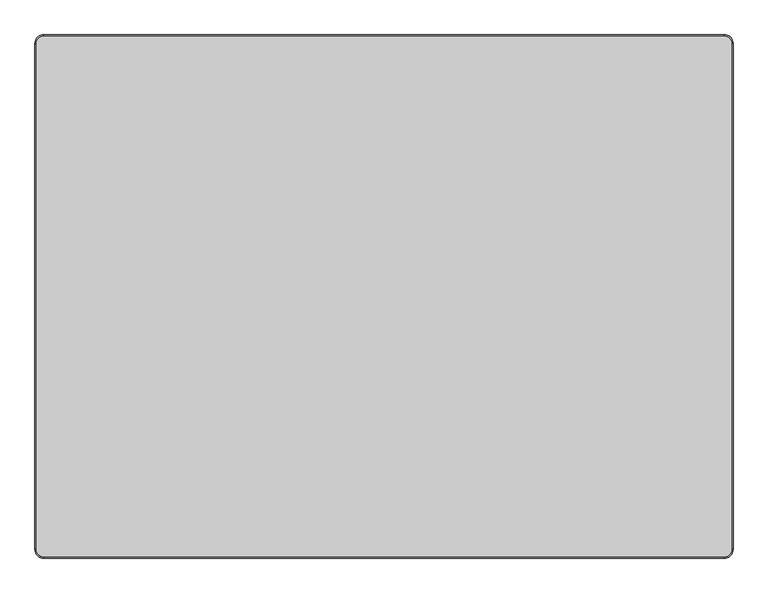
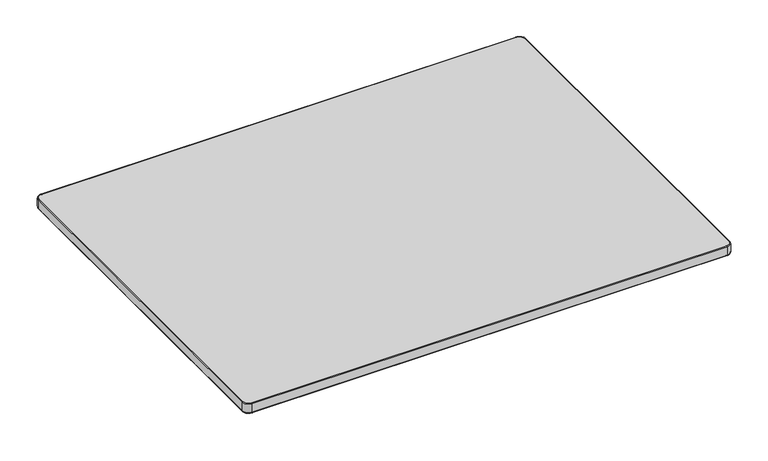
"""IFC4 building model written with IfcOpenShell, lengths in millimetres: furniture geometry, Furniture_Wilkhahn_mAx_461-00 : mAx_461-00_1200L x 900W x 730H-Straight with Plastic Lipping."""

from ifc_helpers import new_model, si_unit, point, frame, frame_2d, origin, place, context, project, spatial, polyline, circle_curve, ellipse_curve, trimmed, segment, composite_curve, outline, extrude, source, transform, mapped, element, save
from ifc_brep_helpers import plane_surface, cylinder_surface, revolved_surface, advanced_brep


def furniture_b8dd3662(model_context):
    return source(origin(), model_context, "Body", "SolidModel", [
        extrude(outline(composite_curve([segment(polyline([(699.4444598, 520.25), (699.4444598, 505.25), (698.6411472, 505.25)]), True, "CONTINUOUS"), segment(trimmed(circle_curve(frame_2d((698.6411472, 497.75)), 7.5), [point((698.6411472, 505.25))], [point((691.1411472, 497.75))], True, "CARTESIAN"), True, "CONTINUOUS"), segment(polyline([(691.1411472, 497.75), (691.1411472, 488.0351209)]), True, "CONTINUOUS"), segment(trimmed(circle_curve(frame_2d((691.6411472, 488.0351209)), 0.5), [point((691.1411472, 488.0351209))], [point((691.6411472, 487.5351209))], True, "CARTESIAN"), True, "CONTINUOUS"), segment(polyline([(691.6411472, 487.5351209), (698.2216542, 487.5351209), (698.2216542, 472.5351209), (691.6411472, 472.5351209)]), True, "CONTINUOUS"), segment(trimmed(circle_curve(frame_2d((691.6411472, 488.0351209)), 15.5), [point((691.6411472, 472.5351209))], [point((676.1411472, 488.0351209))], False, "CARTESIAN"), True, "CONTINUOUS"), segment(polyline([(676.1411472, 488.0351209), (676.1411472, 497.75)]), True, "CONTINUOUS"), segment(trimmed(circle_curve(frame_2d((698.6411472, 497.75)), 22.5), [point((676.1411472, 497.75))], [point((698.6411472, 520.25))], False, "CARTESIAN"), True, "CONTINUOUS"), segment(polyline([(698.6411472, 520.25), (699.4444598, 520.25)]), True, "CONTINUOUS")], self_intersect=False)), frame((0.0, -642.8982692, 0.0), z_axis=(0.0, 1.0, 0.0), x_axis=(0.0, 0.0, 1.0)), (0.0, 0.0, 1.0), 13.865484),
        extrude(outline(composite_curve([segment(trimmed(circle_curve(frame_2d((460.25, -605.3725325)), 9.0), [point((451.25, -605.3725325))], [point((460.25, -596.3725325))], False, "CARTESIAN"), True, "CONTINUOUS"), segment(polyline([(460.25, -596.3725325), (565.25, -596.3725325)]), True, "CONTINUOUS"), segment(trimmed(circle_curve(frame_2d((565.25, -605.3725325)), 9.0), [point((565.25, -596.3725325))], [point((574.25, -605.3725325))], False, "CARTESIAN"), True, "CONTINUOUS"), segment(polyline([(574.25, -605.3725325), (574.25, -666.5585218)]), True, "CONTINUOUS"), segment(trimmed(circle_curve(frame_2d((565.25, -666.5585218)), 9.0), [point((574.25, -666.5585218))], [point((565.25, -675.5585218))], False, "CARTESIAN"), True, "CONTINUOUS"), segment(polyline([(565.25, -675.5585218), (460.25, -675.5585218)]), True, "CONTINUOUS"), segment(trimmed(circle_curve(frame_2d((460.25, -666.5585218)), 9.0), [point((460.25, -675.5585218))], [point((451.25, -666.5585218))], False, "CARTESIAN"), True, "CONTINUOUS"), segment(polyline([(451.25, -666.5585218), (451.25, -605.3725325)]), True, "CONTINUOUS")], self_intersect=False)), frame((0.0, 0.0, 700.0), z_axis=(0.0, 0.0, 1.0), x_axis=(1.0, 0.0, 0.0)), (0.0, 0.0, 1.0), 5.0),
        extrude(outline(composite_curve([segment(polyline([(699.4444598, 505.25), (698.6411472, 505.25)]), True, "CONTINUOUS"), segment(trimmed(circle_curve(frame_2d((698.6411472, 497.75)), 7.5), [point((698.6411472, 505.25))], [point((691.1411472, 497.75))], True, "CARTESIAN"), True, "CONTINUOUS"), segment(polyline([(691.1411472, 497.75), (691.1411472, 488.0351209)]), True, "CONTINUOUS"), segment(trimmed(circle_curve(frame_2d((691.6411472, 488.0351209)), 0.5), [point((691.1411472, 488.0351209))], [point((691.6411472, 487.5351209))], True, "CARTESIAN"), True, "CONTINUOUS"), segment(polyline([(691.6411472, 487.5351209), (698.2216542, 487.5351209), (698.2216542, 472.5351209), (691.6411472, 472.5351209)]), True, "CONTINUOUS"), segment(trimmed(circle_curve(frame_2d((691.6411472, 488.0351209)), 15.5), [point((691.6411472, 472.5351209))], [point((676.1411472, 488.0351209))], False, "CARTESIAN"), True, "CONTINUOUS"), segment(polyline([(676.1411472, 488.0351209), (676.1411472, 497.75)]), True, "CONTINUOUS"), segment(trimmed(circle_curve(frame_2d((698.6411472, 497.75)), 22.5), [point((676.1411472, 497.75))], [point((698.6411472, 520.25))], False, "CARTESIAN"), True, "CONTINUOUS"), segment(polyline([(698.6411472, 520.25), (699.4444598, 520.25), (699.4444598, 505.25)]), True, "CONTINUOUS")], self_intersect=False)), frame((0.0, -982.8982692, 0.0), z_axis=(0.0, 1.0, 0.0), x_axis=(0.0, 0.0, 1.0)), (0.0, 0.0, 1.0), 13.865484),
        extrude(outline(composite_curve([segment(polyline([(451.25, -1006.5585218), (451.25, -945.3725325)]), True, "CONTINUOUS"), segment(trimmed(circle_curve(frame_2d((460.25, -945.3725325)), 9.0), [point((451.25, -945.3725325))], [point((460.25, -936.3725325))], False, "CARTESIAN"), True, "CONTINUOUS"), segment(polyline([(460.25, -936.3725325), (565.25, -936.3725325)]), True, "CONTINUOUS"), segment(trimmed(circle_curve(frame_2d((565.25, -945.3725325)), 9.0), [point((565.25, -936.3725325))], [point((574.25, -945.3725325))], False, "CARTESIAN"), True, "CONTINUOUS"), segment(polyline([(574.25, -945.3725325), (574.25, -1006.5585218)]), True, "CONTINUOUS"), segment(trimmed(circle_curve(frame_2d((565.25, -1006.5585218)), 9.0), [point((574.25, -1006.5585218))], [point((565.25, -1015.5585218))], False, "CARTESIAN"), True, "CONTINUOUS"), segment(polyline([(565.25, -1015.5585218), (460.25, -1015.5585218)]), True, "CONTINUOUS"), segment(trimmed(circle_curve(frame_2d((460.25, -1006.5585218)), 9.0), [point((460.25, -1015.5585218))], [point((451.25, -1006.5585218))], False, "CARTESIAN"), True, "CONTINUOUS")], self_intersect=False)), frame((0.0, 0.0, 700.0), z_axis=(0.0, 0.0, 1.0), x_axis=(1.0, 0.0, 0.0)), (0.0, 0.0, 1.0), 5.0),
        extrude(outline(composite_curve([segment(polyline([(699.4444598, -520.25), (698.6411472, -520.25)]), True, "CONTINUOUS"), segment(trimmed(circle_curve(frame_2d((698.6411472, -497.75)), 22.5), [point((698.6411472, -520.25))], [point((676.1411472, -497.75))], False, "CARTESIAN"), True, "CONTINUOUS"), segment(polyline([(676.1411472, -497.75), (676.1411472, -488.0351209)]), True, "CONTINUOUS"), segment(trimmed(circle_curve(frame_2d((691.6411472, -488.0351209)), 15.5), [point((676.1411472, -488.0351209))], [point((691.6411472, -472.5351209))], False, "CARTESIAN"), True, "CONTINUOUS"), segment(polyline([(691.6411472, -472.5351209), (698.2216542, -472.5351209), (698.2216542, -487.5351209), (691.6411472, -487.5351209)]), True, "CONTINUOUS"), segment(trimmed(circle_curve(frame_2d((691.6411472, -488.0351209)), 0.5), [point((691.6411472, -487.5351209))], [point((691.1411472, -488.0351209))], True, "CARTESIAN"), True, "CONTINUOUS"), segment(polyline([(691.1411472, -488.0351209), (691.1411472, -497.75)]), True, "CONTINUOUS"), segment(trimmed(circle_curve(frame_2d((698.6411472, -497.75)), 7.5), [point((691.1411472, -497.75))], [point((698.6411472, -505.25))], True, "CARTESIAN"), True, "CONTINUOUS"), segment(polyline([(698.6411472, -505.25), (699.4444598, -505.25), (699.4444598, -520.25)]), True, "CONTINUOUS")], self_intersect=False)), frame((0.0, -642.8982692, 0.0), z_axis=(0.0, 1.0, 0.0), x_axis=(0.0, 0.0, 1.0)), (0.0, 0.0, 1.0), 13.865484),
        extrude(outline(composite_curve([segment(polyline([(-451.25, -605.3725325), (-451.25, -666.5585218)]), True, "CONTINUOUS"), segment(trimmed(circle_curve(frame_2d((-460.25, -666.5585218)), 9.0), [point((-451.25, -666.5585218))], [point((-460.25, -675.5585218))], False, "CARTESIAN"), True, "CONTINUOUS"), segment(polyline([(-460.25, -675.5585218), (-565.25, -675.5585218)]), True, "CONTINUOUS"), segment(trimmed(circle_curve(frame_2d((-565.25, -666.5585218)), 9.0), [point((-565.25, -675.5585218))], [point((-574.25, -666.5585218))], False, "CARTESIAN"), True, "CONTINUOUS"), segment(polyline([(-574.25, -666.5585218), (-574.25, -605.3725325)]), True, "CONTINUOUS"), segment(trimmed(circle_curve(frame_2d((-565.25, -605.3725325)), 9.0), [point((-574.25, -605.3725325))], [point((-565.25, -596.3725325))], False, "CARTESIAN"), True, "CONTINUOUS"), segment(polyline([(-565.25, -596.3725325), (-460.25, -596.3725325)]), True, "CONTINUOUS"), segment(trimmed(circle_curve(frame_2d((-460.25, -605.3725325)), 9.0), [point((-460.25, -596.3725325))], [point((-451.25, -605.3725325))], False, "CARTESIAN"), True, "CONTINUOUS")], self_intersect=False)), frame((0.0, 0.0, 700.0), z_axis=(0.0, 0.0, 1.0), x_axis=(1.0, 0.0, 0.0)), (0.0, 0.0, 1.0), 5.0),
        extrude(outline(composite_curve([segment(polyline([(699.4444598, -505.25), (699.4444598, -520.25), (698.6411472, -520.25)]), True, "CONTINUOUS"), segment(trimmed(circle_curve(frame_2d((698.6411472, -497.75)), 22.5), [point((698.6411472, -520.25))], [point((676.1411472, -497.75))], False, "CARTESIAN"), True, "CONTINUOUS"), segment(polyline([(676.1411472, -497.75), (676.1411472, -488.0351209)]), True, "CONTINUOUS"), segment(trimmed(circle_curve(frame_2d((691.6411472, -488.0351209)), 15.5), [point((676.1411472, -488.0351209))], [point((691.6411472, -472.5351209))], False, "CARTESIAN"), True, "CONTINUOUS"), segment(polyline([(691.6411472, -472.5351209), (698.2216542, -472.5351209), (698.2216542, -487.5351209), (691.6411472, -487.5351209)]), True, "CONTINUOUS"), segment(trimmed(circle_curve(frame_2d((691.6411472, -488.0351209)), 0.5), [point((691.6411472, -487.5351209))], [point((691.1411472, -488.0351209))], True, "CARTESIAN"), True, "CONTINUOUS"), segment(polyline([(691.1411472, -488.0351209), (691.1411472, -497.75)]), True, "CONTINUOUS"), segment(trimmed(circle_curve(frame_2d((698.6411472, -497.75)), 7.5), [point((691.1411472, -497.75))], [point((698.6411472, -505.25))], True, "CARTESIAN"), True, "CONTINUOUS"), segment(polyline([(698.6411472, -505.25), (699.4444598, -505.25)]), True, "CONTINUOUS")], self_intersect=False)), frame((0.0, -982.8982692, 0.0), z_axis=(0.0, 1.0, 0.0), x_axis=(0.0, 0.0, 1.0)), (0.0, 0.0, 1.0), 13.865484),
        extrude(outline(composite_curve([segment(trimmed(circle_curve(frame_2d((-460.25, -1006.5585218)), 9.0), [point((-451.25, -1006.5585218))], [point((-460.25, -1015.5585218))], False, "CARTESIAN"), True, "CONTINUOUS"), segment(polyline([(-460.25, -1015.5585218), (-565.25, -1015.5585218)]), True, "CONTINUOUS"), segment(trimmed(circle_curve(frame_2d((-565.25, -1006.5585218)), 9.0), [point((-565.25, -1015.5585218))], [point((-574.25, -1006.5585218))], False, "CARTESIAN"), True, "CONTINUOUS"), segment(polyline([(-574.25, -1006.5585218), (-574.25, -945.3725325)]), True, "CONTINUOUS"), segment(trimmed(circle_curve(frame_2d((-565.25, -945.3725325)), 9.0), [point((-574.25, -945.3725325))], [point((-565.25, -936.3725325))], False, "CARTESIAN"), True, "CONTINUOUS"), segment(polyline([(-565.25, -936.3725325), (-460.25, -936.3725325)]), True, "CONTINUOUS"), segment(trimmed(circle_curve(frame_2d((-460.25, -945.3725325)), 9.0), [point((-460.25, -936.3725325))], [point((-451.25, -945.3725325))], False, "CARTESIAN"), True, "CONTINUOUS"), segment(polyline([(-451.25, -945.3725325), (-451.25, -1006.5585218)]), True, "CONTINUOUS")], self_intersect=False)), frame((0.0, 0.0, 700.0), z_axis=(0.0, 0.0, 1.0), x_axis=(1.0, 0.0, 0.0)), (0.0, 0.0, 1.0), 5.0),
        extrude(outline(composite_curve([segment(trimmed(circle_curve(frame_2d((-780.9655271, 702.5)), 2.5), [point((-780.9655271, 705.0))], [point((-778.4655271, 702.5))], False, "CARTESIAN"), True, "CONTINUOUS"), segment(polyline([(-778.4655271, 702.5), (-778.4655271, 680.0)]), True, "CONTINUOUS"), segment(trimmed(circle_curve(frame_2d((-780.9655271, 680.0)), 2.5), [point((-778.4655271, 680.0))], [point((-780.9655271, 677.5))], False, "CARTESIAN"), True, "CONTINUOUS"), segment(polyline([(-780.9655271, 677.5), (-830.9655271, 677.5)]), True, "CONTINUOUS"), segment(trimmed(circle_curve(frame_2d((-830.9655271, 680.0)), 2.5), [point((-830.9655271, 677.5))], [point((-833.4655271, 680.0))], False, "CARTESIAN"), True, "CONTINUOUS"), segment(polyline([(-833.4655271, 680.0), (-833.4655271, 702.5)]), True, "CONTINUOUS"), segment(trimmed(circle_curve(frame_2d((-830.9655271, 702.5)), 2.5), [point((-833.4655271, 702.5))], [point((-830.9655271, 705.0))], False, "CARTESIAN"), True, "CONTINUOUS"), segment(polyline([(-830.9655271, 705.0), (-780.9655271, 705.0)]), True, "CONTINUOUS")], self_intersect=False)), frame((-540.0, 0.0, 0.0), z_axis=(1.0, 0.0, 0.0), x_axis=(0.0, 1.0, 0.0)), (0.0, 0.0, 1.0), 1080.0),
        advanced_brep(
        [(-585.0, -1255.9655271, 706.5), (-600.0, -1240.9655271, 706.5), (-598.5, -1240.9655271, 705.0), (-585.0, -1254.4655271, 705.0), (-585.0, -1255.9655271, 728.5), (-600.0, -1240.9655271, 728.5), (-585.0, -1254.4655271, 730.0), (-598.5, -1240.9655271, 730.0), (585.0, -1254.4655271, 705.0), (585.0, -1255.9655271, 706.5), (585.0, -1255.9655271, 728.5), (585.0, -1254.4655271, 730.0), (598.5, -1240.9655271, 705.0), (600.0, -1240.9655271, 706.5), (600.0, -1240.9655271, 728.5), (598.5, -1240.9655271, 730.0), (598.5, -370.9655271, 705.0), (600.0, -370.9655271, 706.5), (600.0, -370.9655271, 728.5), (598.5, -370.9655271, 730.0), (585.0, -357.4655271, 705.0), (585.0, -355.9655271, 706.5), (585.0, -355.9655271, 728.5), (585.0, -357.4655271, 730.0), (-585.0, -357.4655271, 705.0), (-585.0, -355.9655271, 706.5), (-585.0, -355.9655271, 728.5), (-585.0, -357.4655271, 730.0), (-598.5, -370.9655271, 705.0), (-600.0, -370.9655271, 706.5), (-600.0, -370.9655271, 728.5), (-598.5, -370.9655271, 730.0)],
        [
            (0, 1, circle_curve(frame((-585.0, -1240.9655271, 706.5), z_axis=(0.0, 0.0, -1.0), x_axis=(-1.0, 0.0, 0.0)), 15.0)),
            (1, 2, circle_curve(frame((-598.5, -1240.9655271, 706.5), z_axis=(0.0, -1.0, 0.0), x_axis=(1.0, 0.0, 0.0)), 1.5)),
            (2, 3, circle_curve(frame((-585.0, -1240.9655271, 705.0), z_axis=(0.0, 0.0, 1.0), x_axis=(-1.0, 0.0, 0.0)), 13.5)),
            (3, 0, circle_curve(frame((-585.0, -1254.4655271, 706.5), z_axis=(-1.0, 0.0, 0.0), x_axis=(0.0, 1.0, 0.0)), 1.5)),
            (0, 4),
            (4, 5, circle_curve(frame((-585.0, -1240.9655271, 728.5), z_axis=(0.0, 0.0, -1.0), x_axis=(-1.0, 0.0, 0.0)), 15.0)),
            (5, 1),
            (4, 6, circle_curve(frame((-585.0, -1254.4655271, 728.5), z_axis=(-1.0, 0.0, 0.0), x_axis=(0.0, 1.0, 0.0)), 1.5)),
            (6, 7, circle_curve(frame((-585.0, -1240.9655271, 730.0), z_axis=(0.0, 0.0, -1.0), x_axis=(-1.0, 0.0, 0.0)), 13.5)),
            (7, 5, circle_curve(frame((-598.5, -1240.9655271, 728.5), z_axis=(0.0, -1.0, 0.0), x_axis=(1.0, 0.0, 0.0)), 1.5)),
            (3, 8),
            (8, 9, circle_curve(frame((585.0, -1254.4655271, 706.5), z_axis=(-1.0, 0.0, 0.0), x_axis=(0.0, 1.0, 0.0)), 1.5)),
            (9, 0),
            (9, 10),
            (10, 4),
            (10, 11, circle_curve(frame((585.0, -1254.4655271, 728.5), z_axis=(-1.0, 0.0, 0.0), x_axis=(0.0, 1.0, 0.0)), 1.5)),
            (11, 6),
            (8, 12, circle_curve(frame((585.0, -1240.9655271, 705.0), z_axis=(0.0, 0.0, 1.0), x_axis=(0.0, -1.0, 0.0)), 13.5)),
            (12, 13, circle_curve(frame((598.5, -1240.9655271, 706.5), z_axis=(0.0, -1.0, 0.0), x_axis=(-1.0, 0.0, 0.0)), 1.5)),
            (13, 9, circle_curve(frame((585.0, -1240.9655271, 706.5), z_axis=(0.0, 0.0, -1.0), x_axis=(0.0, -1.0, 0.0)), 15.0)),
            (13, 14),
            (14, 10, circle_curve(frame((585.0, -1240.9655271, 728.5), z_axis=(0.0, 0.0, -1.0), x_axis=(0.0, -1.0, 0.0)), 15.0)),
            (14, 15, circle_curve(frame((598.5, -1240.9655271, 728.5), z_axis=(0.0, -1.0, 0.0), x_axis=(-1.0, 0.0, 0.0)), 1.5)),
            (15, 11, circle_curve(frame((585.0, -1240.9655271, 730.0), z_axis=(0.0, 0.0, -1.0), x_axis=(0.0, -1.0, 0.0)), 13.5)),
            (12, 16),
            (16, 17, circle_curve(frame((598.5, -370.9655271, 706.5), z_axis=(0.0, -1.0, 0.0), x_axis=(-1.0, 0.0, 0.0)), 1.5)),
            (17, 13),
            (17, 18),
            (18, 14),
            (18, 19, circle_curve(frame((598.5, -370.9655271, 728.5), z_axis=(0.0, -1.0, 0.0), x_axis=(-1.0, 0.0, 0.0)), 1.5)),
            (19, 15),
            (16, 20, circle_curve(frame((585.0, -370.9655271, 705.0), z_axis=(0.0, 0.0, 1.0), x_axis=(1.0, 0.0, 0.0)), 13.5)),
            (20, 21, circle_curve(frame((585.0, -357.4655271, 706.5), z_axis=(1.0, 0.0, 0.0), x_axis=(0.0, -1.0, 0.0)), 1.5)),
            (21, 17, circle_curve(frame((585.0, -370.9655271, 706.5), z_axis=(0.0, 0.0, -1.0), x_axis=(1.0, 0.0, 0.0)), 15.0)),
            (21, 22),
            (22, 18, circle_curve(frame((585.0, -370.9655271, 728.5), z_axis=(0.0, 0.0, -1.0), x_axis=(1.0, 0.0, 0.0)), 15.0)),
            (22, 23, circle_curve(frame((585.0, -357.4655271, 728.5), z_axis=(1.0, 0.0, 0.0), x_axis=(0.0, -1.0, 0.0)), 1.5)),
            (23, 19, circle_curve(frame((585.0, -370.9655271, 730.0), z_axis=(0.0, 0.0, -1.0), x_axis=(1.0, 0.0, 0.0)), 13.5)),
            (20, 24),
            (24, 25, circle_curve(frame((-585.0, -357.4655271, 706.5), z_axis=(1.0, 0.0, 0.0), x_axis=(0.0, -1.0, 0.0)), 1.5)),
            (25, 21),
            (25, 26),
            (26, 22),
            (26, 27, circle_curve(frame((-585.0, -357.4655271, 728.5), z_axis=(1.0, 0.0, 0.0), x_axis=(0.0, -1.0, 0.0)), 1.5)),
            (27, 23),
            (24, 28, circle_curve(frame((-585.0, -370.9655271, 705.0), z_axis=(0.0, 0.0, 1.0), x_axis=(0.0, 1.0, 0.0)), 13.5)),
            (28, 29, circle_curve(frame((-598.5, -370.9655271, 706.5), z_axis=(0.0, 1.0, 0.0), x_axis=(1.0, 0.0, 0.0)), 1.5)),
            (29, 25, circle_curve(frame((-585.0, -370.9655271, 706.5), z_axis=(0.0, 0.0, -1.0), x_axis=(0.0, 1.0, 0.0)), 15.0)),
            (29, 30),
            (30, 26, circle_curve(frame((-585.0, -370.9655271, 728.5), z_axis=(0.0, 0.0, -1.0), x_axis=(0.0, 1.0, 0.0)), 15.0)),
            (30, 31, circle_curve(frame((-598.5, -370.9655271, 728.5), z_axis=(0.0, 1.0, 0.0), x_axis=(1.0, 0.0, 0.0)), 1.5)),
            (31, 27, circle_curve(frame((-585.0, -370.9655271, 730.0), z_axis=(0.0, 0.0, -1.0), x_axis=(0.0, 1.0, 0.0)), 13.5)),
            (2, 28),
            (1, 29),
            (5, 30),
            (7, 31),
        ],
        [
            revolved_surface(trimmed(ellipse_curve(frame((-598.5, -1240.9655271, 706.5), z_axis=(0.0, 1.0, 0.0), x_axis=(1.0, 0.0, 0.0)), 1.5, 1.5), [point((-598.5, -1240.9655271, 705.0))], [point((-600.0, -1240.9655271, 706.5))], True, "CARTESIAN"), (-585.0, -1240.9655271, 730.0), (0.0, 0.0, 1.0)),
            cylinder_surface(frame((-585.0, -1240.9655271, 730.0), z_axis=(0.0, 0.0, 1.0), x_axis=(-1.0, 0.0, 0.0)), 15.0),
            revolved_surface(trimmed(ellipse_curve(frame((-598.5, -1240.9655271, 728.5), z_axis=(0.0, 1.0, 0.0), x_axis=(1.0, 0.0, 0.0)), 1.5, 1.5), [point((-600.0, -1240.9655271, 728.5))], [point((-598.5, -1240.9655271, 730.0))], True, "CARTESIAN"), (-585.0, -1240.9655271, 730.0), (0.0, 0.0, 1.0)),
            cylinder_surface(frame((-585.0, -1254.4655271, 706.5), z_axis=(-1.0, 0.0, 0.0), x_axis=(0.0, 1.0, 0.0)), 1.5),
            plane_surface(frame((-585.0, -1255.9655271, 706.5), z_axis=(0.0, -1.0, 0.0), x_axis=(1.0, 0.0, 0.0))),
            cylinder_surface(frame((-585.0, -1254.4655271, 728.5), z_axis=(-1.0, 0.0, 0.0), x_axis=(0.0, 1.0, 0.0)), 1.5),
            revolved_surface(trimmed(ellipse_curve(frame((585.0, -1254.4655271, 706.5), z_axis=(-1.0, 0.0, 0.0), x_axis=(0.0, 1.0, 0.0)), 1.5, 1.5), [point((585.0, -1254.4655271, 705.0))], [point((585.0, -1255.9655271, 706.5))], True, "CARTESIAN"), (585.0, -1240.9655271, 730.0), (0.0, 0.0, 1.0)),
            cylinder_surface(frame((585.0, -1240.9655271, 730.0), z_axis=(0.0, 0.0, 1.0), x_axis=(0.0, -1.0, 0.0)), 15.0),
            revolved_surface(trimmed(ellipse_curve(frame((585.0, -1254.4655271, 728.5), z_axis=(-1.0, 0.0, 0.0), x_axis=(0.0, 1.0, 0.0)), 1.5, 1.5), [point((585.0, -1255.9655271, 728.5))], [point((585.0, -1254.4655271, 730.0))], True, "CARTESIAN"), (585.0, -1240.9655271, 730.0), (0.0, 0.0, 1.0)),
            cylinder_surface(frame((598.5, -1240.9655271, 706.5), z_axis=(0.0, -1.0, 0.0), x_axis=(-1.0, 0.0, 0.0)), 1.5),
            plane_surface(frame((600.0, -1240.9655271, 706.5), z_axis=(1.0, 0.0, 0.0), x_axis=(0.0, 1.0, 0.0))),
            cylinder_surface(frame((598.5, -1240.9655271, 728.5), z_axis=(0.0, -1.0, 0.0), x_axis=(-1.0, 0.0, 0.0)), 1.5),
            revolved_surface(trimmed(ellipse_curve(frame((598.5, -370.9655271, 706.5), z_axis=(0.0, -1.0, 0.0), x_axis=(-1.0, 0.0, 0.0)), 1.5, 1.5), [point((598.5, -370.9655271, 705.0))], [point((600.0, -370.9655271, 706.5))], True, "CARTESIAN"), (585.0, -370.9655271, 730.0), (0.0, 0.0, 1.0)),
            cylinder_surface(frame((585.0, -370.9655271, 730.0), z_axis=(0.0, 0.0, 1.0), x_axis=(1.0, 0.0, 0.0)), 15.0),
            revolved_surface(trimmed(ellipse_curve(frame((598.5, -370.9655271, 728.5), z_axis=(0.0, -1.0, 0.0), x_axis=(-1.0, 0.0, 0.0)), 1.5, 1.5), [point((600.0, -370.9655271, 728.5))], [point((598.5, -370.9655271, 730.0))], True, "CARTESIAN"), (585.0, -370.9655271, 730.0), (0.0, 0.0, 1.0)),
            cylinder_surface(frame((585.0, -357.4655271, 706.5), z_axis=(1.0, 0.0, 0.0), x_axis=(0.0, -1.0, 0.0)), 1.5),
            plane_surface(frame((585.0, -355.9655271, 706.5), z_axis=(0.0, 1.0, 0.0), x_axis=(-1.0, 0.0, 0.0))),
            cylinder_surface(frame((585.0, -357.4655271, 728.5), z_axis=(1.0, 0.0, 0.0), x_axis=(0.0, -1.0, 0.0)), 1.5),
            revolved_surface(trimmed(ellipse_curve(frame((-585.0, -357.4655271, 706.5), z_axis=(1.0, 0.0, 0.0), x_axis=(0.0, -1.0, 0.0)), 1.5, 1.5), [point((-585.0, -357.4655271, 705.0))], [point((-585.0, -355.9655271, 706.5))], True, "CARTESIAN"), (-585.0, -370.9655271, 730.0), (0.0, 0.0, 1.0)),
            cylinder_surface(frame((-585.0, -370.9655271, 730.0), z_axis=(0.0, 0.0, 1.0), x_axis=(0.0, 1.0, 0.0)), 15.0),
            revolved_surface(trimmed(ellipse_curve(frame((-585.0, -357.4655271, 728.5), z_axis=(1.0, 0.0, 0.0), x_axis=(0.0, -1.0, 0.0)), 1.5, 1.5), [point((-585.0, -355.9655271, 728.5))], [point((-585.0, -357.4655271, 730.0))], True, "CARTESIAN"), (-585.0, -370.9655271, 730.0), (0.0, 0.0, 1.0)),
            plane_surface(frame((-595.0, -370.9655271, 705.0), z_axis=(0.0, 0.0, -1.0), x_axis=(0.0, -1.0, 0.0))),
            cylinder_surface(frame((-598.5, -370.9655271, 706.5), z_axis=(0.0, 1.0, 0.0), x_axis=(1.0, 0.0, 0.0)), 1.5),
            plane_surface(frame((-600.0, -370.9655271, 706.5), z_axis=(-1.0, 0.0, 0.0), x_axis=(0.0, -1.0, 0.0))),
            cylinder_surface(frame((-598.5, -370.9655271, 728.5), z_axis=(0.0, 1.0, 0.0), x_axis=(1.0, 0.0, 0.0)), 1.5),
            plane_surface(frame((-598.5, -370.9655271, 730.0), z_axis=(0.0, 0.0, 1.0), x_axis=(0.0, -1.0, 0.0))),
        ],
        [
            (0, [[1, 2, 3, 4]]),
            (1, [[-1, 5, 6, 7]]),
            (2, [[-6, 8, 9, 10]]),
            (3, [[-4, 11, 12, 13]]),
            (4, [[-5, -13, 14, 15]]),
            (5, [[-8, -15, 16, 17]]),
            (6, [[-12, 18, 19, 20]]),
            (7, [[-14, -20, 21, 22]]),
            (8, [[-16, -22, 23, 24]]),
            (9, [[-19, 25, 26, 27]]),
            (10, [[-21, -27, 28, 29]]),
            (11, [[-23, -29, 30, 31]]),
            (12, [[-26, 32, 33, 34]]),
            (13, [[-28, -34, 35, 36]]),
            (14, [[-30, -36, 37, 38]]),
            (15, [[-33, 39, 40, 41]]),
            (16, [[-35, -41, 42, 43]]),
            (17, [[-37, -43, 44, 45]]),
            (18, [[-40, 46, 47, 48]]),
            (19, [[-42, -48, 49, 50]]),
            (20, [[-44, -50, 51, 52]]),
            (21, [[-3, 53, -46, -39, -32, -25, -18, -11]]),
            (22, [[-2, 54, -47, -53]]),
            (23, [[-7, 55, -49, -54]]),
            (24, [[-10, 56, -51, -55]]),
            (25, [[-9, -17, -24, -31, -38, -45, -52, -56]]),
        ],
    ),
    ])


if __name__ == "__main__":
    model = new_model("IFC4")
    model_context = context("Model", 3, world=origin())
    ifc_project = project(units=[si_unit("LENGTHUNIT", "METRE", prefix="MILLI")], contexts=[model_context])
    site = spatial("IfcSite", under=ifc_project)
    building = spatial("IfcBuilding", under=site)
    placement = place(None, origin())
    furniture_shape = furniture_b8dd3662(model_context)
    element("IfcFurniture", 1, ObjectType="Furniture_Wilkhahn_mAx_461-00 : mAx_461-00_1200L x 900W x 730H-Straight with Plastic Lipping", at=placement, inside=building, context=model_context, shape_type="MappedRepresentation", body=[
        mapped(furniture_shape, transform((0.0, 0.0, 0.0), x_axis=(1.0, 0.0, 0.0), y_axis=(0.0, 1.0, 0.0), z_axis=(0.0, 0.0, 1.0))),
    ])
    save(model, "model.ifc")
